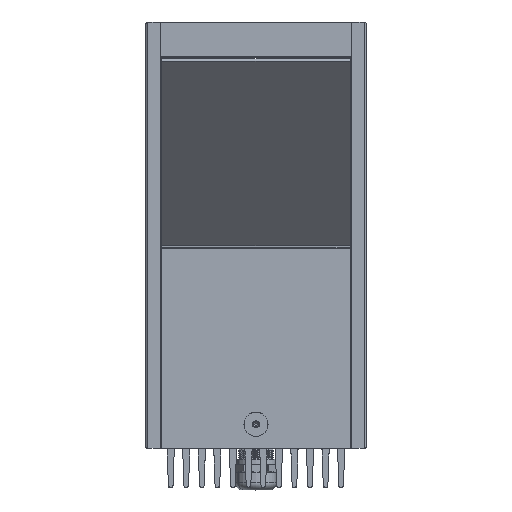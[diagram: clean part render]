
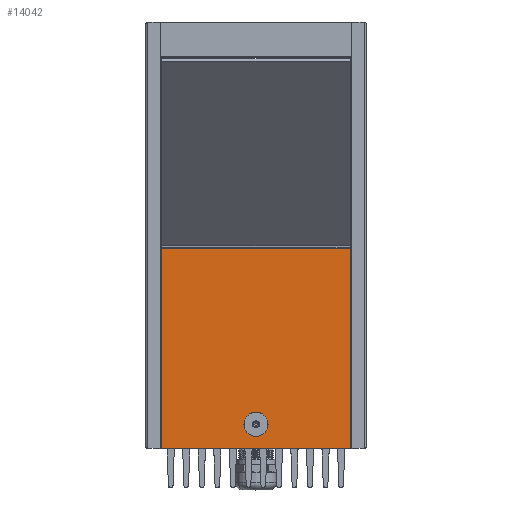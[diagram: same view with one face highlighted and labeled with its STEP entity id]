
A CAD part, top view. The second image highlights one B-rep face of the part: STEP entity #14042.
In plain terms, the highlighted planar face has unit normal (0, 0, 1) as drawn and (0, 1, 0) by its records, which use the part's own axes.
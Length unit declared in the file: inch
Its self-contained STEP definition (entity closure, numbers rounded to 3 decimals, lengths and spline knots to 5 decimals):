
#1877 = DIRECTION ( 'NONE',  ( 0., 1., 0. ) ) ;
#2902 = DIRECTION ( 'NONE',  ( 0., 0., 1. ) ) ;
#3797 = EDGE_CURVE ( 'NONE', #55482, #38620, #50778, .T. ) ;
#4309 = DIRECTION ( 'NONE',  ( 0., 0., 1. ) ) ;
#5616 = ORIENTED_EDGE ( 'NONE', *, *, #35330, .F. ) ;
#5886 = EDGE_CURVE ( 'NONE', #33470, #55482, #46651, .T. ) ;
#6285 = CARTESIAN_POINT ( 'NONE',  ( 0., 0.04041, 0.823 ) ) ;
#6452 = FACE_OUTER_BOUND ( 'NONE', #50877, .T. ) ;
#6670 = DIRECTION ( 'NONE',  ( -1., 0., 0. ) ) ;
#8223 = VECTOR ( 'NONE', #33270, 39.37008 ) ;
#8967 = AXIS2_PLACEMENT_3D ( 'NONE', #6285, #1877, #14729 ) ;
#8979 = CIRCLE ( 'NONE', #10397, 0.13 ) ;
#10397 = AXIS2_PLACEMENT_3D ( 'NONE', #30614, #53020, #4309 ) ;
#10634 = LINE ( 'NONE', #45780, #55884 ) ;
#13971 = AXIS2_PLACEMENT_3D ( 'NONE', #51447, #38584, #2902 ) ;
#14042 = ADVANCED_FACE ( 'NONE', ( #6452, #55140 ), #38208, .T. ) ;
#14729 = DIRECTION ( 'NONE',  ( 0., 0., 1. ) ) ;
#16764 = CARTESIAN_POINT ( 'NONE',  ( 1.0205, 0.0404, -1.08 ) ) ;
#18679 = CARTESIAN_POINT ( 'NONE',  ( 0., 0.04041, 0.953 ) ) ;
#20585 = VECTOR ( 'NONE', #53498, 39.37008 ) ;
#21538 = EDGE_CURVE ( 'NONE', #29791, #31307, #28285, .T. ) ;
#26406 = ORIENTED_EDGE ( 'NONE', *, *, #5886, .T. ) ;
#27039 = ORIENTED_EDGE ( 'NONE', *, *, #3797, .T. ) ;
#28285 = CIRCLE ( 'NONE', #8967, 0.13 ) ;
#28582 = VERTEX_POINT ( 'NONE', #16764 ) ;
#29560 = LINE ( 'NONE', #55100, #8223 ) ;
#29791 = VERTEX_POINT ( 'NONE', #46387 ) ;
#30218 = VECTOR ( 'NONE', #39732, 39.37008 ) ;
#30614 = CARTESIAN_POINT ( 'NONE',  ( 0., 0.04041, 0.823 ) ) ;
#30899 = EDGE_LOOP ( 'NONE', ( #5616, #32759 ) ) ;
#31307 = VERTEX_POINT ( 'NONE', #18679 ) ;
#32759 = ORIENTED_EDGE ( 'NONE', *, *, #21538, .F. ) ;
#33270 = DIRECTION ( 'NONE',  ( 0., 0., 1. ) ) ;
#33470 = VERTEX_POINT ( 'NONE', #43068 ) ;
#35330 = EDGE_CURVE ( 'NONE', #31307, #29791, #8979, .T. ) ;
#35725 = CARTESIAN_POINT ( 'NONE',  ( -1.0205, 0.0404, -1.08 ) ) ;
#35887 = CARTESIAN_POINT ( 'NONE',  ( -1.0855, 0.04041, 1.08 ) ) ;
#38208 = PLANE ( 'NONE',  #13971 ) ;
#38584 = DIRECTION ( 'NONE',  ( 0., 1., 0. ) ) ;
#38620 = VERTEX_POINT ( 'NONE', #45590 ) ;
#39732 = DIRECTION ( 'NONE',  ( 1., 0., 0. ) ) ;
#40518 = EDGE_CURVE ( 'NONE', #28582, #33470, #10634, .T. ) ;
#41201 = ORIENTED_EDGE ( 'NONE', *, *, #50188, .F. ) ;
#42107 = ORIENTED_EDGE ( 'NONE', *, *, #40518, .T. ) ;
#43068 = CARTESIAN_POINT ( 'NONE',  ( -1.0205, 0.0404, -1.08 ) ) ;
#45590 = CARTESIAN_POINT ( 'NONE',  ( 1.0205, 0.04041, 1.08 ) ) ;
#45780 = CARTESIAN_POINT ( 'NONE',  ( -1.0855, 0.04041, -1.08 ) ) ;
#46387 = CARTESIAN_POINT ( 'NONE',  ( 0., 0.04041, 0.693 ) ) ;
#46651 = LINE ( 'NONE', #35725, #20585 ) ;
#48664 = CARTESIAN_POINT ( 'NONE',  ( -1.0205, 0.0404, 1.08 ) ) ;
#50188 = EDGE_CURVE ( 'NONE', #28582, #38620, #29560, .T. ) ;
#50778 = LINE ( 'NONE', #35887, #30218 ) ;
#50877 = EDGE_LOOP ( 'NONE', ( #26406, #27039, #41201, #42107 ) ) ;
#51447 = CARTESIAN_POINT ( 'NONE',  ( -1.0855, 0.04041, 1.08 ) ) ;
#53020 = DIRECTION ( 'NONE',  ( 0., 1., 0. ) ) ;
#53498 = DIRECTION ( 'NONE',  ( 0., 0., 1. ) ) ;
#55100 = CARTESIAN_POINT ( 'NONE',  ( 1.0205, 0.0404, -1.08 ) ) ;
#55140 = FACE_BOUND ( 'NONE', #30899, .T. ) ;
#55482 = VERTEX_POINT ( 'NONE', #48664 ) ;
#55884 = VECTOR ( 'NONE', #6670, 39.37008 ) ;
